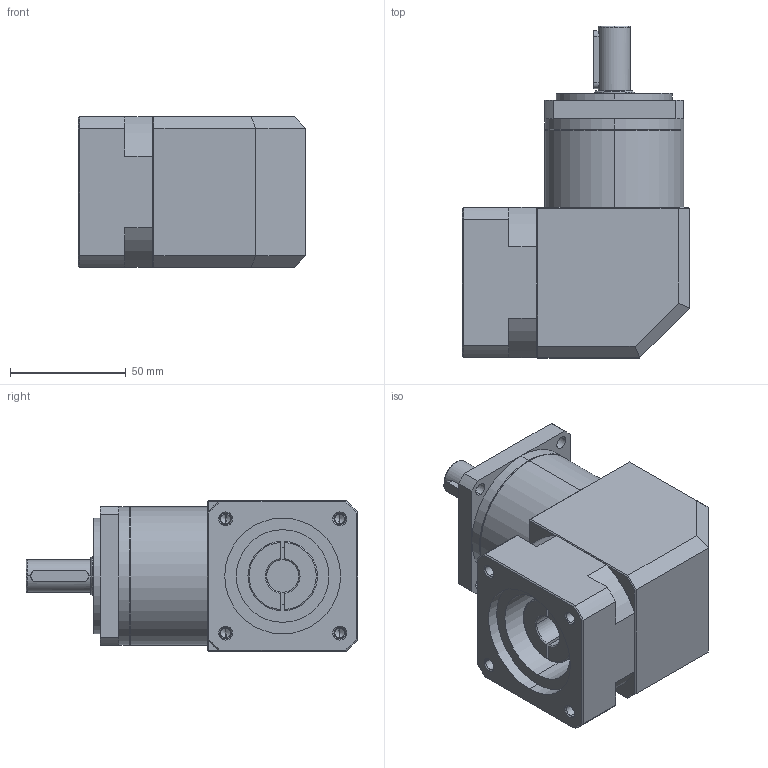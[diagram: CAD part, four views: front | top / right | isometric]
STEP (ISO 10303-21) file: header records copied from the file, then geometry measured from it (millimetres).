
FILE_DESCRIPTION((''),'2;1');
FILE_NAME('ASM0007_ASM','2017-06-15T',('Administrator'),(''),'PRO/ENGINEER BY PARAMETRIC TECHNOLOGY CORPORATION, 2013230','PRO/ENGINEER BY PARAMETRIC TECHNOLOGY CORPORATION, 2013230','');
FILE_SCHEMA(('CONFIG_CONTROL_DESIGN'));
Length unit declared in the file: millimetre
Products named in the file (7): ZFR60输入法兰; ZFR60蛌褒眊极; PRT0088; PRT0089; PRT0090; PRT0091; ASM0007_ASM
Assembly tree (6 placements, depth 2):
  ASM0007_ASM
    ZFR60输入法兰
    ZFR60蛌褒眊极
    PRT0088
    PRT0089
    PRT0090
    PRT0091
Bounding box: 98.1 x 143.3 x 65 mm (x, y, z)
Volume: 406358.7 mm3; surface area: 80696.3 mm2
Topology: 6 solids, 6 shells, 212 faces, 510 edges, 315 vertices
Faces by surface type: plane 83, cylinder 76, cone 45, torus 8
Entity records: 6460 total; most frequent: CARTESIAN_POINT 1255, DIRECTION 1143, ORIENTED_EDGE 1000, EDGE_CURVE 500, AXIS2_PLACEMENT_3D 452, VERTEX_POINT 315, EDGE_LOOP 243, VECTOR 239
